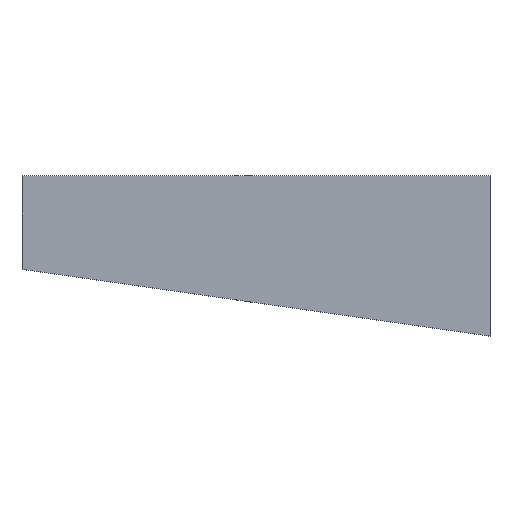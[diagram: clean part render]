
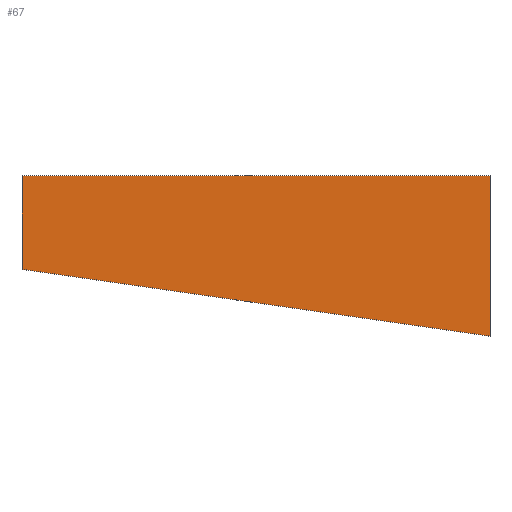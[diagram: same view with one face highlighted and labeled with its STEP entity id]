
A CAD part, top view. The second image highlights one B-rep face of the part: STEP entity #67.
In plain terms, the highlighted planar face has unit normal (0, 0, 1).
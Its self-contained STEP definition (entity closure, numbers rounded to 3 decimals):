
#12 = ORIENTED_EDGE ( 'NONE', *, *, #123, .T. ) ;
#14 = LINE ( 'NONE', #63, #125 ) ;
#20 = CARTESIAN_POINT ( 'NONE',  ( 350., 0., 10. ) ) ;
#22 = AXIS2_PLACEMENT_3D ( 'NONE', #132, #30, #40 ) ;
#30 = DIRECTION ( 'NONE',  ( 0., 0., -1. ) ) ;
#31 = VECTOR ( 'NONE', #122, 1000. ) ;
#40 = DIRECTION ( 'NONE',  ( -1., 0., 0. ) ) ;
#55 = EDGE_CURVE ( 'NONE', #198, #56, #14, .T. ) ;
#56 = VERTEX_POINT ( 'NONE', #77 ) ;
#58 = ORIENTED_EDGE ( 'NONE', *, *, #55, .T. ) ;
#60 = CARTESIAN_POINT ( 'NONE',  ( 0., 0., 10. ) ) ;
#63 = CARTESIAN_POINT ( 'NONE',  ( 0., -70., 10. ) ) ;
#64 = CARTESIAN_POINT ( 'NONE',  ( 350., 0., 10. ) ) ;
#67 = ADVANCED_FACE ( 'NONE', ( #171 ), #202, .F. ) ;
#71 = DIRECTION ( 'NONE',  ( 0.99, -0.141, 0. ) ) ;
#77 = CARTESIAN_POINT ( 'NONE',  ( 0., -70., 10. ) ) ;
#88 = EDGE_LOOP ( 'NONE', ( #58, #12, #144, #156 ) ) ;
#96 = DIRECTION ( 'NONE',  ( 0., -1., 0. ) ) ;
#106 = CARTESIAN_POINT ( 'NONE',  ( 0., 0., 10. ) ) ;
#115 = CARTESIAN_POINT ( 'NONE',  ( 350., -120., 10. ) ) ;
#116 = LINE ( 'NONE', #60, #153 ) ;
#118 = VERTEX_POINT ( 'NONE', #115 ) ;
#122 = DIRECTION ( 'NONE',  ( 0., 1., 0. ) ) ;
#123 = EDGE_CURVE ( 'NONE', #56, #118, #186, .T. ) ;
#124 = VECTOR ( 'NONE', #71, 1000. ) ;
#125 = VECTOR ( 'NONE', #96, 1000. ) ;
#132 = CARTESIAN_POINT ( 'NONE',  ( 0., 0., 10. ) ) ;
#135 = EDGE_CURVE ( 'NONE', #187, #198, #116, .T. ) ;
#143 = LINE ( 'NONE', #64, #31 ) ;
#144 = ORIENTED_EDGE ( 'NONE', *, *, #154, .T. ) ;
#153 = VECTOR ( 'NONE', #181, 1000. ) ;
#154 = EDGE_CURVE ( 'NONE', #118, #187, #143, .T. ) ;
#156 = ORIENTED_EDGE ( 'NONE', *, *, #135, .T. ) ;
#171 = FACE_OUTER_BOUND ( 'NONE', #88, .T. ) ;
#181 = DIRECTION ( 'NONE',  ( -1., 0., 0. ) ) ;
#186 = LINE ( 'NONE', #188, #124 ) ;
#187 = VERTEX_POINT ( 'NONE', #20 ) ;
#188 = CARTESIAN_POINT ( 'NONE',  ( 350., -120., 10. ) ) ;
#198 = VERTEX_POINT ( 'NONE', #106 ) ;
#202 = PLANE ( 'NONE',  #22 ) ;
